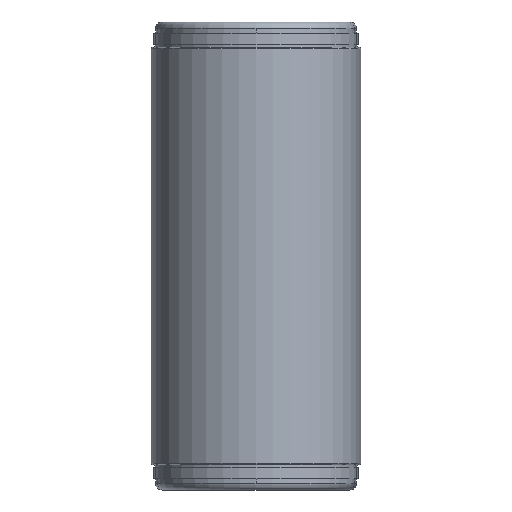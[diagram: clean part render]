
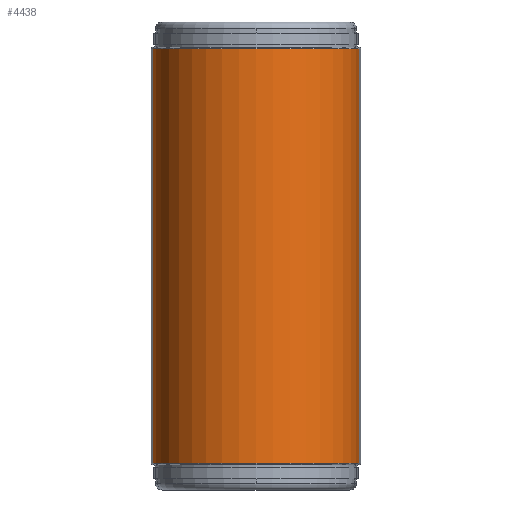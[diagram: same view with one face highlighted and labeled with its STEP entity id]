
A CAD part, left-side view. The second image highlights one B-rep face of the part: STEP entity #4438.
In plain terms, the highlighted cylindrical face has radius 75.3 mm (diameter 150.6 mm), a partial arc.
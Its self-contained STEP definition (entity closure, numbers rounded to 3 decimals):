
#473 = CARTESIAN_POINT ( 'NONE',  ( -4.374, -75.173, 151.4 ) ) ;
#617 = DIRECTION ( 'NONE',  ( 0., 0., 1. ) ) ;
#622 = LINE ( 'NONE', #2963, #6553 ) ;
#848 = CIRCLE ( 'NONE', #7995, 75.3 ) ;
#895 = ORIENTED_EDGE ( 'NONE', *, *, #1930, .T. ) ;
#898 = DIRECTION ( 'NONE',  ( 0., 0., -1. ) ) ;
#976 = EDGE_CURVE ( 'NONE', #5256, #1400, #848, .T. ) ;
#1286 = EDGE_CURVE ( 'NONE', #5256, #4177, #622, .T. ) ;
#1400 = VERTEX_POINT ( 'NONE', #473 ) ;
#1560 = ORIENTED_EDGE ( 'NONE', *, *, #1286, .T. ) ;
#1930 = EDGE_CURVE ( 'NONE', #4177, #8678, #7187, .T. ) ;
#1969 = EDGE_LOOP ( 'NONE', ( #1560, #895, #3557, #2078 ) ) ;
#2078 = ORIENTED_EDGE ( 'NONE', *, *, #976, .F. ) ;
#2114 = CARTESIAN_POINT ( 'NONE',  ( 0., 0., 151.4 ) ) ;
#2917 = CARTESIAN_POINT ( 'NONE',  ( -4.374, -75.173, -151.4 ) ) ;
#2963 = CARTESIAN_POINT ( 'NONE',  ( -4.374, 75.173, 151.4 ) ) ;
#3361 = FACE_OUTER_BOUND ( 'NONE', #1969, .T. ) ;
#3534 = AXIS2_PLACEMENT_3D ( 'NONE', #8035, #7281, #6660 ) ;
#3557 = ORIENTED_EDGE ( 'NONE', *, *, #6763, .F. ) ;
#3837 = LINE ( 'NONE', #5604, #7468 ) ;
#4177 = VERTEX_POINT ( 'NONE', #5744 ) ;
#4426 = CARTESIAN_POINT ( 'NONE',  ( -4.374, 75.173, 151.4 ) ) ;
#4438 = ADVANCED_FACE ( 'NONE', ( #3361 ), #6857, .T. ) ;
#5256 = VERTEX_POINT ( 'NONE', #4426 ) ;
#5436 = CARTESIAN_POINT ( 'NONE',  ( 0., 0., -151.4 ) ) ;
#5604 = CARTESIAN_POINT ( 'NONE',  ( -4.374, -75.173, 151.4 ) ) ;
#5744 = CARTESIAN_POINT ( 'NONE',  ( -4.374, 75.173, -151.4 ) ) ;
#6265 = AXIS2_PLACEMENT_3D ( 'NONE', #5436, #617, #8812 ) ;
#6435 = DIRECTION ( 'NONE',  ( 0., 0., -1. ) ) ;
#6553 = VECTOR ( 'NONE', #6435, 1000. ) ;
#6660 = DIRECTION ( 'NONE',  ( 1., 0., 0. ) ) ;
#6763 = EDGE_CURVE ( 'NONE', #1400, #8678, #3837, .T. ) ;
#6857 = CYLINDRICAL_SURFACE ( 'NONE', #3534, 75.3 ) ;
#7187 = CIRCLE ( 'NONE', #6265, 75.3 ) ;
#7281 = DIRECTION ( 'NONE',  ( 0., 0., 1. ) ) ;
#7468 = VECTOR ( 'NONE', #898, 1000. ) ;
#7995 = AXIS2_PLACEMENT_3D ( 'NONE', #2114, #8805, #8218 ) ;
#8035 = CARTESIAN_POINT ( 'NONE',  ( 0., 0., 0. ) ) ;
#8218 = DIRECTION ( 'NONE',  ( 1., 0., 0. ) ) ;
#8678 = VERTEX_POINT ( 'NONE', #2917 ) ;
#8805 = DIRECTION ( 'NONE',  ( 0., 0., 1. ) ) ;
#8812 = DIRECTION ( 'NONE',  ( 1., 0., 0. ) ) ;
